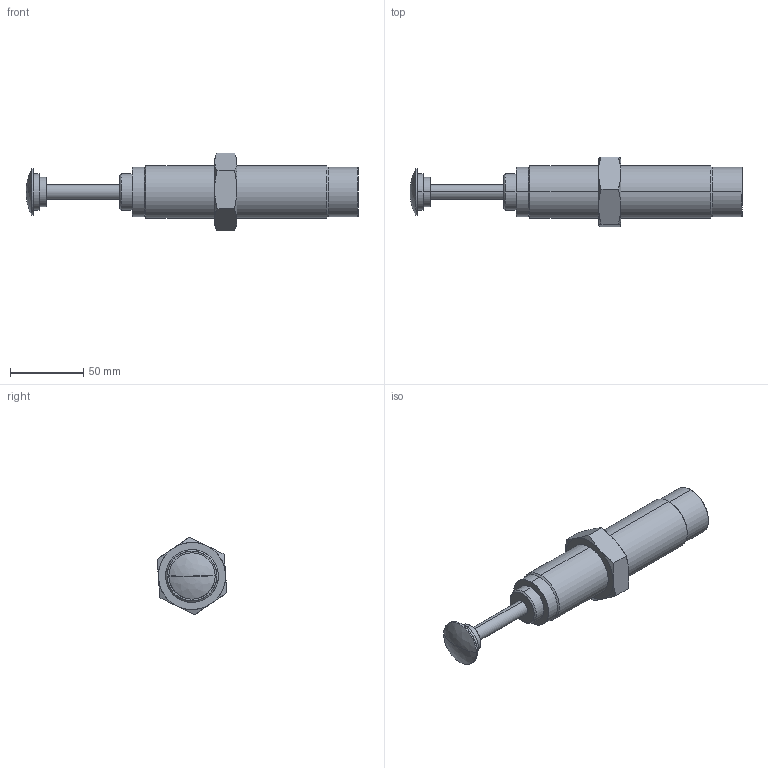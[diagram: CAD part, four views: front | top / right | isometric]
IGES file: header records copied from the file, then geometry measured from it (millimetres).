
Start section: SolidWorks IGES file using analytic representation for surfaces
Global section: file name: C:\Users\Sam Lin\Desktop\48\FSA-3650CD.IGS; native system: SolidWorks 2013; preprocessor: SolidWorks 2013; author: Sam Lin; date: 160317.152713; units: metre
Bounding box: 227 x 47.81 x 52.98 mm (x, y, z)
Surface area: 29177.4 mm2 (no closed solid volume)
Topology: 0 solids, 0 shells, 52 faces, 972 edges, 971 vertices
Faces by surface type: revolution 26, bspline 26
